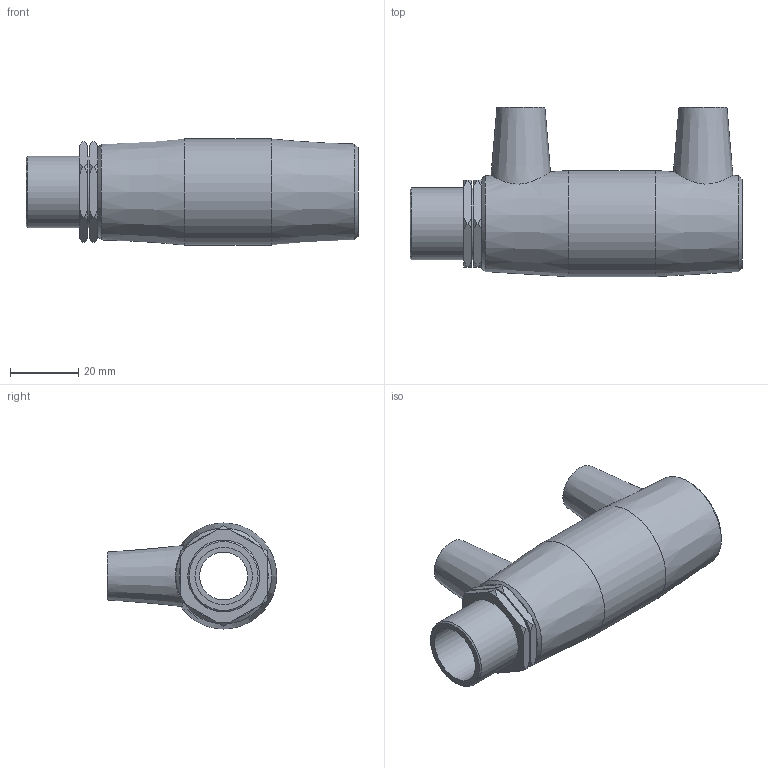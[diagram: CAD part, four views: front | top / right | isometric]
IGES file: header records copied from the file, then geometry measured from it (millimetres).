
Global section: file name: 497104020005.ipt; native system: Autodesk Inventor 2015; preprocessor: unknown; author: KIM; date: 20171106.094423; units: millimetre
Bounding box: 97 x 49.5 x 31 mm (x, y, z)
Volume: 45297.2 mm3; surface area: 19306.1 mm2
Topology: 1 solids, 2 shells, 75 faces, 186 edges, 126 vertices
Faces by surface type: cone 31, plane 29, revolution 8, cylinder 7
Full cylindrical faces by diameter (mm): 4 x2, 20 x2, 20.955 x2, 31 x1
